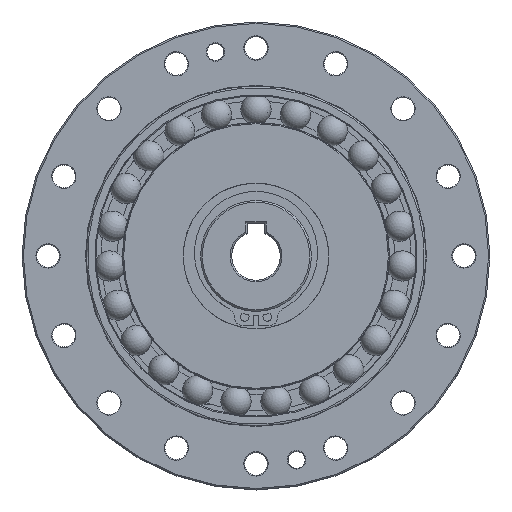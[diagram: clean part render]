
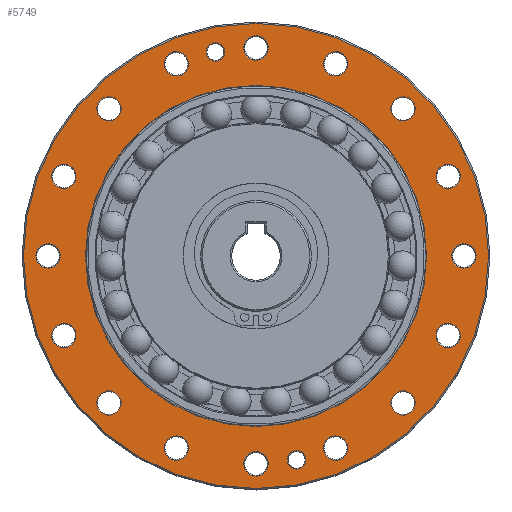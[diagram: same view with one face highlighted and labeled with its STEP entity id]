
A CAD part, top view. The second image highlights one B-rep face of the part: STEP entity #5749.
In plain terms, the highlighted planar face has unit normal (0, 0, 1).
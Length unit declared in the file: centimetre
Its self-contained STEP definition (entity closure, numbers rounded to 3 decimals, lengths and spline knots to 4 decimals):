
#512=PLANE($,#6583);
#607=FACE_BOUND($,#1718,.T.);
#608=FACE_BOUND($,#1719,.T.);
#609=FACE_BOUND($,#1720,.T.);
#610=FACE_BOUND($,#1721,.T.);
#611=FACE_BOUND($,#1722,.T.);
#612=FACE_BOUND($,#1723,.T.);
#613=FACE_BOUND($,#1724,.T.);
#614=FACE_BOUND($,#1725,.T.);
#615=FACE_BOUND($,#1726,.T.);
#616=FACE_BOUND($,#1727,.T.);
#617=FACE_BOUND($,#1728,.T.);
#618=FACE_BOUND($,#1729,.T.);
#619=FACE_BOUND($,#1730,.T.);
#620=FACE_BOUND($,#1731,.T.);
#621=FACE_BOUND($,#1732,.T.);
#622=FACE_BOUND($,#1733,.T.);
#623=FACE_BOUND($,#1734,.T.);
#624=FACE_BOUND($,#1735,.T.);
#625=FACE_BOUND($,#1736,.T.);
#1272=FACE_OUTER_BOUND($,#1717,.T.);
#1717=EDGE_LOOP($,(#5147));
#1718=EDGE_LOOP($,(#5148));
#1719=EDGE_LOOP($,(#5149));
#1720=EDGE_LOOP($,(#5150));
#1721=EDGE_LOOP($,(#5151));
#1722=EDGE_LOOP($,(#5152));
#1723=EDGE_LOOP($,(#5153));
#1724=EDGE_LOOP($,(#5154));
#1725=EDGE_LOOP($,(#5155));
#1726=EDGE_LOOP($,(#5156));
#1727=EDGE_LOOP($,(#5157));
#1728=EDGE_LOOP($,(#5158));
#1729=EDGE_LOOP($,(#5159));
#1730=EDGE_LOOP($,(#5160));
#1731=EDGE_LOOP($,(#5161));
#1732=EDGE_LOOP($,(#5162));
#1733=EDGE_LOOP($,(#5163));
#1734=EDGE_LOOP($,(#5164));
#1735=EDGE_LOOP($,(#5165));
#1736=EDGE_LOOP($,(#5166));
#2348=CIRCLE($,#6582,4.9194);
#2349=CIRCLE($,#6584,6.71);
#2350=CIRCLE($,#6585,0.35);
#2351=CIRCLE($,#6586,0.35);
#2352=CIRCLE($,#6587,0.35);
#2353=CIRCLE($,#6588,0.35);
#2354=CIRCLE($,#6589,0.35);
#2355=CIRCLE($,#6590,0.2659);
#2356=CIRCLE($,#6591,0.35);
#2357=CIRCLE($,#6592,0.35);
#2358=CIRCLE($,#6593,0.35);
#2359=CIRCLE($,#6594,0.35);
#2360=CIRCLE($,#6595,0.35);
#2361=CIRCLE($,#6596,0.35);
#2362=CIRCLE($,#6597,0.35);
#2363=CIRCLE($,#6598,0.35);
#2364=CIRCLE($,#6599,0.35);
#2365=CIRCLE($,#6600,0.35);
#2366=CIRCLE($,#6601,0.35);
#2367=CIRCLE($,#6602,0.2659);
#2868=VERTEX_POINT($,#10525);
#2869=VERTEX_POINT($,#10528);
#2870=VERTEX_POINT($,#10530);
#2871=VERTEX_POINT($,#10532);
#2872=VERTEX_POINT($,#10534);
#2873=VERTEX_POINT($,#10536);
#2874=VERTEX_POINT($,#10538);
#2875=VERTEX_POINT($,#10540);
#2876=VERTEX_POINT($,#10542);
#2877=VERTEX_POINT($,#10544);
#2878=VERTEX_POINT($,#10546);
#2879=VERTEX_POINT($,#10548);
#2880=VERTEX_POINT($,#10550);
#2881=VERTEX_POINT($,#10552);
#2882=VERTEX_POINT($,#10554);
#2883=VERTEX_POINT($,#10556);
#2884=VERTEX_POINT($,#10558);
#2885=VERTEX_POINT($,#10560);
#2886=VERTEX_POINT($,#10562);
#2887=VERTEX_POINT($,#10564);
#3624=EDGE_CURVE($,#2868,#2868,#2348,.T.);
#3625=EDGE_CURVE($,#2869,#2869,#2349,.T.);
#3626=EDGE_CURVE($,#2870,#2870,#2350,.T.);
#3627=EDGE_CURVE($,#2871,#2871,#2351,.T.);
#3628=EDGE_CURVE($,#2872,#2872,#2352,.T.);
#3629=EDGE_CURVE($,#2873,#2873,#2353,.T.);
#3630=EDGE_CURVE($,#2874,#2874,#2354,.T.);
#3631=EDGE_CURVE($,#2875,#2875,#2355,.T.);
#3632=EDGE_CURVE($,#2876,#2876,#2356,.T.);
#3633=EDGE_CURVE($,#2877,#2877,#2357,.T.);
#3634=EDGE_CURVE($,#2878,#2878,#2358,.T.);
#3635=EDGE_CURVE($,#2879,#2879,#2359,.T.);
#3636=EDGE_CURVE($,#2880,#2880,#2360,.T.);
#3637=EDGE_CURVE($,#2881,#2881,#2361,.T.);
#3638=EDGE_CURVE($,#2882,#2882,#2362,.T.);
#3639=EDGE_CURVE($,#2883,#2883,#2363,.T.);
#3640=EDGE_CURVE($,#2884,#2884,#2364,.T.);
#3641=EDGE_CURVE($,#2885,#2885,#2365,.T.);
#3642=EDGE_CURVE($,#2886,#2886,#2366,.T.);
#3643=EDGE_CURVE($,#2887,#2887,#2367,.T.);
#5147=ORIENTED_EDGE($,*,*,#3625,.F.);
#5148=ORIENTED_EDGE($,*,*,#3626,.F.);
#5149=ORIENTED_EDGE($,*,*,#3627,.F.);
#5150=ORIENTED_EDGE($,*,*,#3628,.F.);
#5151=ORIENTED_EDGE($,*,*,#3629,.F.);
#5152=ORIENTED_EDGE($,*,*,#3630,.F.);
#5153=ORIENTED_EDGE($,*,*,#3631,.F.);
#5154=ORIENTED_EDGE($,*,*,#3632,.F.);
#5155=ORIENTED_EDGE($,*,*,#3633,.F.);
#5156=ORIENTED_EDGE($,*,*,#3634,.F.);
#5157=ORIENTED_EDGE($,*,*,#3635,.F.);
#5158=ORIENTED_EDGE($,*,*,#3636,.F.);
#5159=ORIENTED_EDGE($,*,*,#3637,.F.);
#5160=ORIENTED_EDGE($,*,*,#3638,.F.);
#5161=ORIENTED_EDGE($,*,*,#3639,.F.);
#5162=ORIENTED_EDGE($,*,*,#3640,.F.);
#5163=ORIENTED_EDGE($,*,*,#3641,.F.);
#5164=ORIENTED_EDGE($,*,*,#3642,.F.);
#5165=ORIENTED_EDGE($,*,*,#3643,.F.);
#5166=ORIENTED_EDGE($,*,*,#3624,.T.);
#5749=ADVANCED_FACE($,(#1272,#607,#608,#609,#610,#611,#612,#613,#614,#615,
#616,#617,#618,#619,#620,#621,#622,#623,#624,#625),#512,.T.);
#6582=AXIS2_PLACEMENT_3D($,#10526,#8398,#8399);
#6583=AXIS2_PLACEMENT_3D($,#10527,#8400,#8401);
#6584=AXIS2_PLACEMENT_3D($,#10529,#8402,#8403);
#6585=AXIS2_PLACEMENT_3D($,#10531,#8404,#8405);
#6586=AXIS2_PLACEMENT_3D($,#10533,#8406,#8407);
#6587=AXIS2_PLACEMENT_3D($,#10535,#8408,#8409);
#6588=AXIS2_PLACEMENT_3D($,#10537,#8410,#8411);
#6589=AXIS2_PLACEMENT_3D($,#10539,#8412,#8413);
#6590=AXIS2_PLACEMENT_3D($,#10541,#8414,#8415);
#6591=AXIS2_PLACEMENT_3D($,#10543,#8416,#8417);
#6592=AXIS2_PLACEMENT_3D($,#10545,#8418,#8419);
#6593=AXIS2_PLACEMENT_3D($,#10547,#8420,#8421);
#6594=AXIS2_PLACEMENT_3D($,#10549,#8422,#8423);
#6595=AXIS2_PLACEMENT_3D($,#10551,#8424,#8425);
#6596=AXIS2_PLACEMENT_3D($,#10553,#8426,#8427);
#6597=AXIS2_PLACEMENT_3D($,#10555,#8428,#8429);
#6598=AXIS2_PLACEMENT_3D($,#10557,#8430,#8431);
#6599=AXIS2_PLACEMENT_3D($,#10559,#8432,#8433);
#6600=AXIS2_PLACEMENT_3D($,#10561,#8434,#8435);
#6601=AXIS2_PLACEMENT_3D($,#10563,#8436,#8437);
#6602=AXIS2_PLACEMENT_3D($,#10565,#8438,#8439);
#8398=DIRECTION('center_axis',(0.,0.,-1.));
#8399=DIRECTION('ref_axis',(-1.,0.,0.));
#8400=DIRECTION('center_axis',(0.,0.,1.));
#8401=DIRECTION('ref_axis',(-1.,0.,0.));
#8402=DIRECTION('center_axis',(0.,0.,-1.));
#8403=DIRECTION('ref_axis',(0.,-1.,0.));
#8404=DIRECTION('center_axis',(0.,0.,1.));
#8405=DIRECTION('ref_axis',(-0.924,-0.383,0.));
#8406=DIRECTION('center_axis',(0.,0.,1.));
#8407=DIRECTION('ref_axis',(-1.,0.,0.));
#8408=DIRECTION('center_axis',(0.,0.,1.));
#8409=DIRECTION('ref_axis',(-0.707,0.707,0.));
#8410=DIRECTION('center_axis',(0.,0.,1.));
#8411=DIRECTION('ref_axis',(0.,1.,0.));
#8412=DIRECTION('center_axis',(0.,0.,1.));
#8413=DIRECTION('ref_axis',(0.707,0.707,0.));
#8414=DIRECTION('center_axis',(0.,0.,1.));
#8415=DIRECTION('ref_axis',(-1.,0.,0.));
#8416=DIRECTION('center_axis',(0.,0.,1.));
#8417=DIRECTION('ref_axis',(0.924,-0.383,0.));
#8418=DIRECTION('center_axis',(0.,0.,1.));
#8419=DIRECTION('ref_axis',(0.383,-0.924,0.));
#8420=DIRECTION('center_axis',(0.,0.,1.));
#8421=DIRECTION('ref_axis',(-0.383,-0.924,0.));
#8422=DIRECTION('center_axis',(0.,0.,1.));
#8423=DIRECTION('ref_axis',(-0.707,-0.707,0.));
#8424=DIRECTION('center_axis',(0.,0.,1.));
#8425=DIRECTION('ref_axis',(0.,-1.,0.));
#8426=DIRECTION('center_axis',(0.,0.,1.));
#8427=DIRECTION('ref_axis',(0.707,-0.707,0.));
#8428=DIRECTION('center_axis',(0.,0.,1.));
#8429=DIRECTION('ref_axis',(1.,0.,0.));
#8430=DIRECTION('center_axis',(0.,0.,1.));
#8431=DIRECTION('ref_axis',(0.924,0.383,0.));
#8432=DIRECTION('center_axis',(0.,0.,1.));
#8433=DIRECTION('ref_axis',(0.383,0.924,0.));
#8434=DIRECTION('center_axis',(0.,0.,1.));
#8435=DIRECTION('ref_axis',(-0.383,0.924,0.));
#8436=DIRECTION('center_axis',(0.,0.,1.));
#8437=DIRECTION('ref_axis',(-0.924,0.383,0.));
#8438=DIRECTION('center_axis',(0.,0.,1.));
#8439=DIRECTION('ref_axis',(1.,0.,0.));
#10525=CARTESIAN_POINT('',(-4.9194,0.,2.1));
#10526=CARTESIAN_POINT('Origin',(0.,0.,2.1));
#10527=CARTESIAN_POINT('Origin',(-5.045,0.,2.1));
#10528=CARTESIAN_POINT('',(0.,6.71,2.1));
#10529=CARTESIAN_POINT('Origin',(0.,0.,2.1));
#10530=CARTESIAN_POINT('',(-1.9727,5.6772,2.1));
#10531=CARTESIAN_POINT('Origin',(-2.2961,5.5433,2.1));
#10532=CARTESIAN_POINT('',(0.35,6.,2.1));
#10533=CARTESIAN_POINT('Origin',(0.,6.,2.1));
#10534=CARTESIAN_POINT('',(4.4901,3.9952,2.1));
#10535=CARTESIAN_POINT('Origin',(4.2426,4.2426,2.1));
#10536=CARTESIAN_POINT('',(6.,-0.35,2.1));
#10537=CARTESIAN_POINT('Origin',(6.,0.,2.1));
#10538=CARTESIAN_POINT('',(3.9952,-4.4901,2.1));
#10539=CARTESIAN_POINT('Origin',(4.2426,-4.2426,2.1));
#10540=CARTESIAN_POINT('',(1.4364,-5.8847,2.1));
#10541=CARTESIAN_POINT('Origin',(1.1705,-5.8847,2.1));
#10542=CARTESIAN_POINT('',(-2.6195,-5.4093,2.1));
#10543=CARTESIAN_POINT('Origin',(-2.2961,-5.5433,2.1));
#10544=CARTESIAN_POINT('',(-5.6772,-1.9727,2.1));
#10545=CARTESIAN_POINT('Origin',(-5.5433,-2.2961,2.1));
#10546=CARTESIAN_POINT('',(-5.4093,2.6195,2.1));
#10547=CARTESIAN_POINT('Origin',(-5.5433,2.2961,2.1));
#10548=CARTESIAN_POINT('',(-3.9952,4.4901,2.1));
#10549=CARTESIAN_POINT('Origin',(-4.2426,4.2426,2.1));
#10550=CARTESIAN_POINT('',(-6.,0.35,2.1));
#10551=CARTESIAN_POINT('Origin',(-6.,0.,2.1));
#10552=CARTESIAN_POINT('',(-4.4901,-3.9952,2.1));
#10553=CARTESIAN_POINT('Origin',(-4.2426,-4.2426,2.1));
#10554=CARTESIAN_POINT('',(-0.35,-6.,2.1));
#10555=CARTESIAN_POINT('Origin',(0.,-6.,2.1));
#10556=CARTESIAN_POINT('',(1.9727,-5.6772,2.1));
#10557=CARTESIAN_POINT('Origin',(2.2961,-5.5433,2.1));
#10558=CARTESIAN_POINT('',(5.4093,-2.6195,2.1));
#10559=CARTESIAN_POINT('Origin',(5.5433,-2.2961,2.1));
#10560=CARTESIAN_POINT('',(5.6772,1.9727,2.1));
#10561=CARTESIAN_POINT('Origin',(5.5433,2.2961,2.1));
#10562=CARTESIAN_POINT('',(2.6195,5.4093,2.1));
#10563=CARTESIAN_POINT('Origin',(2.2961,5.5433,2.1));
#10564=CARTESIAN_POINT('',(-1.4364,5.8847,2.1));
#10565=CARTESIAN_POINT('Origin',(-1.1705,5.8847,2.1));
